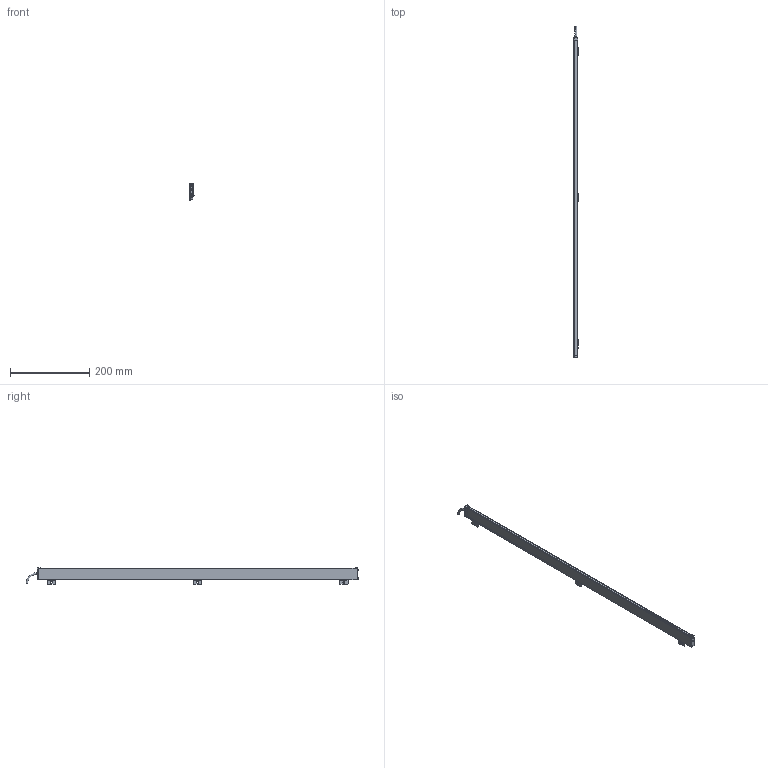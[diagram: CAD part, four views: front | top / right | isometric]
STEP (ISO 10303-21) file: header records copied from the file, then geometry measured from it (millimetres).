
FILE_DESCRIPTION (( 'STEP AP214' ), '1' );
FILE_NAME ('ILG-N-K1-0811mm.STEP', '2017-07-10T13:26:55', ( '' ), ( '' ), 'SwSTEP 2.0', 'SolidWorks 2016', '' );
FILE_SCHEMA (( 'AUTOMOTIVE_DESIGN' ));
Length unit declared in the file: millimetre
Products named in the file (1): ILG-N-K1-0811mm
Bounding box: 10.23 x 839.25 x 42.41 mm (x, y, z)
Volume: 93920.7 mm3; surface area: 139075 mm2
Topology: 12 solids, 12 shells, 532 faces, 1348 edges, 836 vertices
Faces by surface type: plane 296, cylinder 162, cone 64, torus 10
Entity records: 21865 total; most frequent: CARTESIAN_POINT 2865, DIRECTION 2794, ORIENTED_EDGE 2680, EDGE_CURVE 1340, AXIS2_PLACEMENT_3D 973, LINE 848, VECTOR 848, VERTEX_POINT 836
